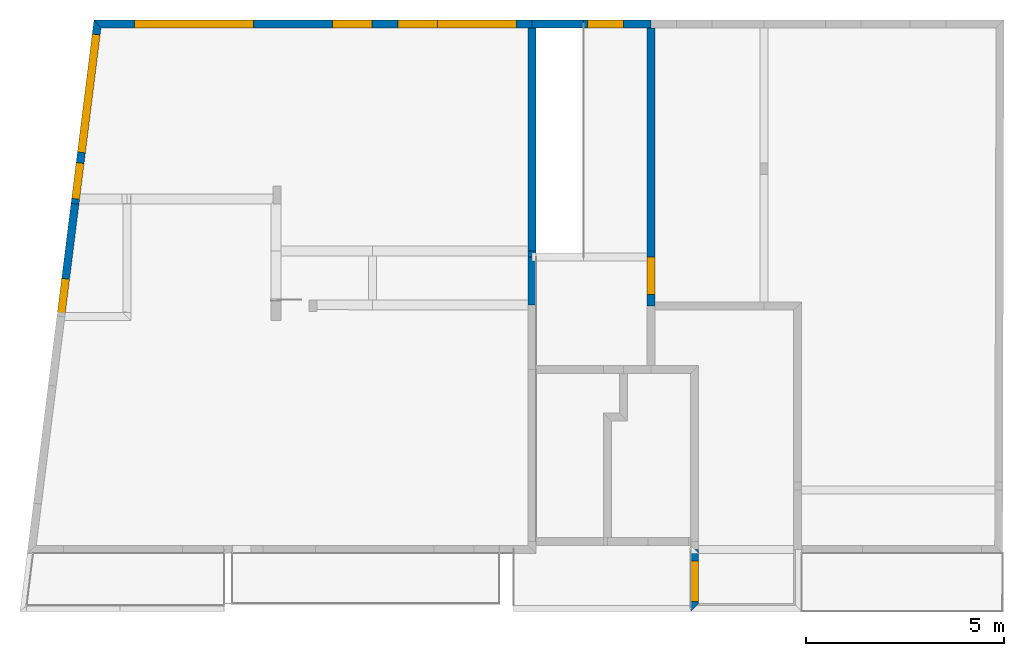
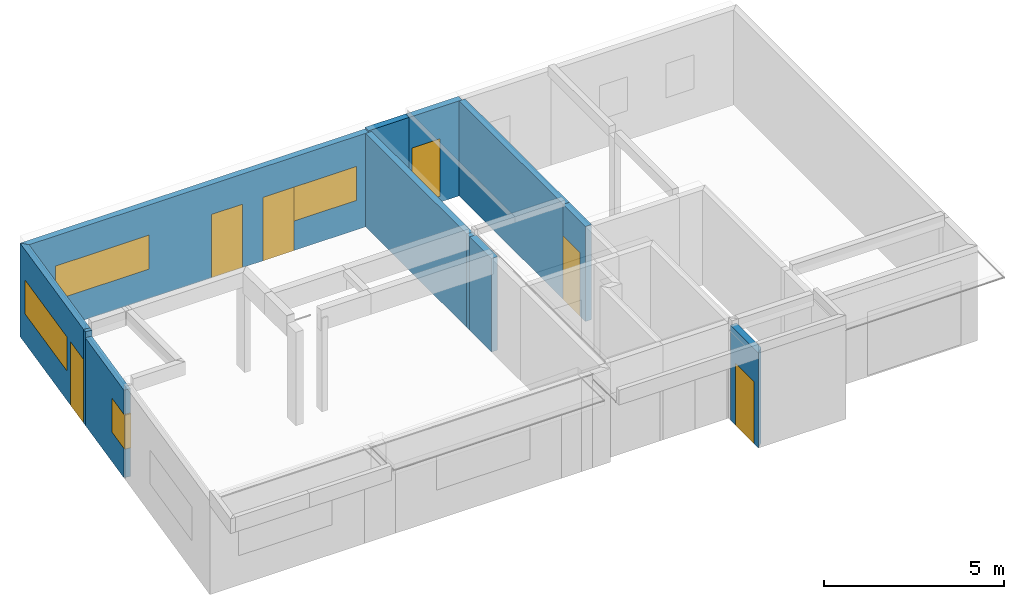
# One storey, part 15 of 17: 12 walls, 5 doors, 5 windows, 10 openings.
"""IFC2X3 building model written with IfcOpenShell, lengths in metres."""

import ifcopenshell
import ifcopenshell.guid

model = None  # the IFC model being written
_history = None  # IfcOwnerHistory: only IFC2X3 demands one
_inside = {}  # id of a spatial element -> (the spatial element, [elements in it])
_under = {}  # id of a project, library or spatial element -> (it, [spatial elements below it])
_declared = {}  # id of a project -> (the project, [libraries it declares])
_typed = {}  # id of a type object -> (the type object, [elements of that type])
_made_of = {}  # id of a material, layer set ... -> (it, [elements and type objects made of it])


def new_model(schema):
    """Start an empty IFC model of exactly this schema.

    Asked for "IFC4X3", IfcOpenShell would pick the latest addendum, in which some entities
    have other attributes; the version numbers below select the first issue.
    IFC2X3 requires an IfcOwnerHistory on every rooted entity: one is made here for all.
    """
    global model, _history
    if schema == "IFC4X3":
        model = ifcopenshell.file(schema_version=(4, 3, 0, 0))
    else:
        model = ifcopenshell.file(schema=schema)
    _inside.clear()
    _under.clear()
    _declared.clear()
    _typed.clear()
    _made_of.clear()
    _history = None
    if model.schema == "IFC2X3":
        org = make("IfcOrganization", Name="unknown")
        user = make(
            "IfcPersonAndOrganization",
            ThePerson=make("IfcPerson", FamilyName="unknown"),
            TheOrganization=org,
        )
        app = make(
            "IfcApplication",
            ApplicationDeveloper=org,
            Version="unknown",
            ApplicationFullName="unknown",
            ApplicationIdentifier="unknown",
        )
        _history = make(
            "IfcOwnerHistory",
            OwningUser=user,
            OwningApplication=app,
            ChangeAction="ADDED",
            CreationDate=0,
        )
    return model


def make(cls, **values):
    """One entity of the class cls with the attributes given. An attribute that is None is left unset."""
    return model.create_entity(
        cls, **{name: value for name, value in values.items() if value is not None}
    )


def rooted(cls, **values):
    """An entity with a GlobalId (a new one), such as an element, a storey or a relation."""
    return make(cls, GlobalId=ifcopenshell.guid.new(), OwnerHistory=_history, **values)


def si_unit(unit_type, name, prefix=None):
    """IfcSIUnit, for example si_unit("LENGTHUNIT", "METRE", prefix="MILLI")."""
    return make("IfcSIUnit", UnitType=unit_type, Prefix=prefix, Name=name)


def assignment(units):
    """IfcUnitAssignment: the units of a project."""
    return None if units is None else make("IfcUnitAssignment", Units=units)


def point(xyz):
    """IfcCartesianPoint."""
    return None if xyz is None else make("IfcCartesianPoint", Coordinates=xyz)


def direction(xyz):
    """IfcDirection."""
    return None if xyz is None else make("IfcDirection", DirectionRatios=xyz)


def frame(location, z_axis=None, x_axis=None):
    """IfcAxis2Placement3D, a coordinate frame: its origin and axes. An axis left out is left unset."""
    return make(
        "IfcAxis2Placement3D",
        Location=point(location),
        Axis=direction(z_axis),
        RefDirection=direction(x_axis),
    )


def frame_2d(location, x_axis=None):
    """IfcAxis2Placement2D, a coordinate frame in the plane: its origin and x axis."""
    return make(
        "IfcAxis2Placement2D", Location=point(location), RefDirection=direction(x_axis)
    )


def origin_with_axes():
    """The frame at (0, 0, 0) with the z axis (0, 0, 1) and the x axis (1, 0, 0) written out."""
    return frame((0.0, 0.0, 0.0), z_axis=(0.0, 0.0, 1.0), x_axis=(1.0, 0.0, 0.0))


def origin_2d():
    """The frame at (0, 0) in the plane with its x axis left unset."""
    return frame_2d((0.0, 0.0))


def place(relative_to, where):
    """IfcLocalPlacement: puts the frame where relative to a parent placement (None: the world)."""
    return make(
        "IfcLocalPlacement", PlacementRelTo=relative_to, RelativePlacement=where
    )


def context(
    kind, dimensions, precision=None, world=None, true_north=None, identifier=None
):
    """IfcGeometricRepresentationContext, for example the 3D "Model" context."""
    return make(
        "IfcGeometricRepresentationContext",
        ContextIdentifier=identifier,
        ContextType=kind,
        CoordinateSpaceDimension=dimensions,
        Precision=precision,
        WorldCoordinateSystem=world,
        TrueNorth=true_north,
    )


def subcontext(parent, identifier, kind, view, scale=None):
    """IfcGeometricRepresentationSubContext, for example "Body" below "Model"."""
    return make(
        "IfcGeometricRepresentationSubContext",
        ContextIdentifier=identifier,
        ContextType=kind,
        ParentContext=parent,
        TargetScale=scale,
        TargetView=view,
    )


def project(units=None, contexts=None):
    """IfcProject with its units and contexts."""
    return rooted(
        "IfcProject",
        Name="project",
        RepresentationContexts=contexts,
        UnitsInContext=assignment(units),
    )


def spatial(cls, under=None, at=None, **own):
    """A site, building, storey or space (cls), placed at a placement, below another one or the project."""
    s = rooted(cls, ObjectPlacement=at, **own)
    if under is not None:
        _under.setdefault(under.id(), (under, []))[1].append(s)
    return s


def polyline(points):
    """IfcPolyline through the points."""
    return make("IfcPolyline", Points=[point(p) for p in points])


def profile(cls, at=None, kind="AREA", **sizes):
    """A parametric profile (cls). Its sizes go by their IFC names, for example OverallWidth=200.0."""
    return make(cls, ProfileType=kind, Position=at, **sizes)


def rectangle(**sizes):
    """IfcRectangleProfileDef."""
    return profile("IfcRectangleProfileDef", **sizes)


def outline(outer, holes=None, kind="AREA"):
    """IfcArbitraryClosedProfileDef: a profile drawn as a closed curve; with holes, ...WithVoids."""
    if holes is None:
        return make("IfcArbitraryClosedProfileDef", ProfileType=kind, OuterCurve=outer)
    return make(
        "IfcArbitraryProfileDefWithVoids",
        ProfileType=kind,
        OuterCurve=outer,
        InnerCurves=holes,
    )


def extrude(swept, where, along, depth):
    """IfcExtrudedAreaSolid: the profile swept, set in the frame where, extruded along a direction by depth."""
    return make(
        "IfcExtrudedAreaSolid",
        SweptArea=swept,
        Position=where,
        ExtrudedDirection=direction(along),
        Depth=depth,
    )


def shape(context_of_items, identifier, shape_type, items):
    """IfcShapeRepresentation: the items that make up one representation, for example the "Body"."""
    return make(
        "IfcShapeRepresentation",
        ContextOfItems=context_of_items,
        RepresentationIdentifier=identifier,
        RepresentationType=shape_type,
        Items=items,
    )


def material(Name=None, Category=None):
    """IfcMaterial."""
    return make("IfcMaterial", Name=Name, Category=Category)


def layer(
    of_material, thickness, ventilated=None, Name=None, Category=None, Priority=None
):
    """IfcMaterialLayer: one layer of a wall or slab, of a material (None: an air gap)."""
    return make(
        "IfcMaterialLayer",
        Material=of_material,
        LayerThickness=thickness,
        IsVentilated=ventilated,
        Name=Name,
        Category=Category,
        Priority=Priority,
    )


def layer_set(layers, Name=None):
    """IfcMaterialLayerSet."""
    return make("IfcMaterialLayerSet", MaterialLayers=layers, LayerSetName=Name)


def layer_usage(for_layer_set, set_direction, sense, offset, extent=None):
    """IfcMaterialLayerSetUsage: how a layer set lies in its element."""
    return make(
        "IfcMaterialLayerSetUsage",
        ForLayerSet=for_layer_set,
        LayerSetDirection=set_direction,
        DirectionSense=sense,
        OffsetFromReferenceLine=offset,
        ReferenceExtent=extent,
    )


def made_of(thing, what):
    """Note that an element or type object is made of a material, layer set ...; save() writes the relation."""
    if what is not None:
        _made_of.setdefault(what.id(), (what, []))[1].append(thing)
    return thing


def type_object(cls, material=None, **own):
    """A type object (cls), such as IfcWallType, which elements share."""
    return made_of(rooted(cls, **own), material)


def element(
    cls,
    number,
    at=None,
    inside=None,
    cuts=None,
    type_object=None,
    material=None,
    context=None,
    identifier="Body",
    shape_type=None,
    held_by="IfcProductDefinitionShape",
    body=None,
    shapes=None,
    **own,
):
    """One element of the class cls, such as IfcWall. Its Tag is "e" and its number.

    at: its placement. inside: the storey or other place that contains it. cuts: it is an
    opening in that element (IfcRelVoidsElement). A single representation is given by context,
    identifier, shape_type and body (its items); several are given by shapes. held_by: the class
    of the entity that holds the representations. save() writes the other relations.
    """
    e = rooted(cls, Tag="e%d" % number, ObjectPlacement=at, **own)
    if body is not None:
        shapes = [shape(context, identifier, shape_type, body)]
    if shapes is not None:
        e.Representation = make(held_by, Representations=shapes)
    if inside is not None:
        _inside.setdefault(inside.id(), (inside, []))[1].append(e)
    if cuts is not None:
        rooted(
            "IfcRelVoidsElement", RelatingBuildingElement=cuts, RelatedOpeningElement=e
        )
    if type_object is not None:
        _typed.setdefault(type_object.id(), (type_object, []))[1].append(e)
    return made_of(e, material)


def fill(opening, filler):
    """IfcRelFillsElement: the door or window that sits in an opening."""
    return rooted(
        "IfcRelFillsElement",
        RelatingOpeningElement=opening,
        RelatedBuildingElement=filler,
    )


def aggregate(whole, parts):
    """IfcRelAggregates: a whole, such as a stair, and the parts it consists of."""
    return rooted("IfcRelAggregates", RelatingObject=whole, RelatedObjects=parts)


def save(model, path):
    """Write the relations noted so far, then the file.

    IfcRelAggregates (storeys below a building ...), IfcRelContainedInSpatialStructure (elements
    in a storey), IfcRelDefinesByType, IfcRelAssociatesMaterial and IfcRelDeclares: one each for
    every whole, place, type object, material and project.
    """
    for whole, parts in _under.values():
        aggregate(whole, parts)
    for where, things in _inside.values():
        rooted(
            "IfcRelContainedInSpatialStructure",
            RelatedElements=things,
            RelatingStructure=where,
        )
    for kind, things in _typed.values():
        rooted("IfcRelDefinesByType", RelatedObjects=things, RelatingType=kind)
    for what, things in _made_of.values():
        rooted("IfcRelAssociatesMaterial", RelatedObjects=things, RelatingMaterial=what)
    for by, libraries in _declared.values():
        rooted("IfcRelDeclares", RelatingContext=by, RelatedDefinitions=libraries)
    model.write(path)


model = new_model("IFC2X3")

# Units and contexts
model_context = context("Model", 3, precision=0.0001, world=origin_with_axes(), true_north=direction((0.0, 1.0)))
plan_context = context("Plan", 2, precision=0.0001, world=origin_with_axes(), true_north=direction((0.0, 1.0)))
body_context = subcontext(model_context, "Body", "Model", "MODEL_VIEW")
ifc_project = project(units=[si_unit("LENGTHUNIT", "METRE"), si_unit("AREAUNIT", "SQUARE_METRE"), si_unit("MASSUNIT", "GRAM", prefix="KILO"), si_unit("VOLUMEUNIT", "CUBIC_METRE")], contexts=[plan_context, model_context])

# Site, building, storey
site_placement = place(None, origin_with_axes())
site = spatial("IfcSite", under=ifc_project, at=site_placement, Name="$", CompositionType="ELEMENT")
building_placement = place(site_placement, origin_with_axes())
building = spatial("IfcBuilding", under=site, at=building_placement, Name="Classeur ENS Ensemble", CompositionType="ELEMENT")
storey_placement = place(building_placement, frame((-20.30778888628, -1.812671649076, 0.0), z_axis=(0.0, 0.0, 1.0), x_axis=(1.0, 0.0, 0.0)))
storey = spatial("IfcBuildingStorey", under=building, at=storey_placement, Name="001 RdC", CompositionType="ELEMENT", Elevation=0.0)

# Wall, openings, windows, doors
ifc_material_1 = material(Name="voile BA 20 cm")
ifc_layer_1 = layer(ifc_material_1, 0.2000000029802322)
ifc_layer_set_1 = layer_set([ifc_layer_1], Name="voile BA 20 cm+")
ifc_layer_usage_1 = layer_usage(ifc_layer_set_1, "AXIS2", "POSITIVE", -0.1000000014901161)
wall_type = type_object("IfcWallType", PredefinedType="STANDARD")
wall_1_placement = place(storey_placement, frame((20.41370627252, 1.692671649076, -0.119999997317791), z_axis=(0.0, 0.0, 1.0), x_axis=(1.0, 0.0, 0.0)))
wall_1 = element("IfcWall", 1, at=wall_1_placement, inside=storey, type_object=wall_type, material=ifc_layer_usage_1, Name="voile BA 20 cm", context=body_context, shape_type="SweptSolid", held_by="IfcProductRepresentation", body=[
    extrude(outline(polyline([(-0.0882644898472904, 0.1000000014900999), (-0.0882644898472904, 0.1000000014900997), (-0.0882644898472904, 0.1000000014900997), (10.96958903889, 0.1000000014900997), (10.96958903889, 0.1000000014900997), (10.96958903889, 0.1000000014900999), (10.96958903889, -0.1000000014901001), (10.86958903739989, -0.1000000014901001), (10.86958903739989, -0.1000000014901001), (0.0882644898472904, -0.1000000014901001), (0.0882644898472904, -0.1000000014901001), (0.0882644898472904, -0.1000000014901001), (-0.0882644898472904, 0.1000000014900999)])), origin_with_axes(), (0.0, 0.0, 1.0), 3.170000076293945),
])
opening_1_placement = place(wall_1_placement, frame((2.43802946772, 0.1000000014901, 0.999999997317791), z_axis=(0.0, 0.0, 1.0), x_axis=(1.0, 0.0, 0.0)))
opening_1 = element("IfcOpeningElement", 2, at=opening_1_placement, cuts=wall_1, Name="BL 300 x 115", context=body_context, shape_type="SweptSolid", held_by="IfcProductRepresentation", body=[
    extrude(rectangle(XDim=3.0, YDim=1.149999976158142, at=origin_2d()), frame((0.0, 0.0, 0.574999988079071), z_axis=(0.0, -1.0, 0.0), x_axis=(1.0, 0.0, 0.0)), (0.0, 0.0, 1.0), 0.2000000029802),
])
opening_2_placement = place(wall_1_placement, frame((9.57738370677, 0.1000000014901, 0.999999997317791), z_axis=(0.0, 0.0, 1.0), x_axis=(1.0, 0.0, 0.0)))
opening_2 = element("IfcOpeningElement", 3, at=opening_2_placement, cuts=wall_1, Name="BL 200 x 115", context=body_context, shape_type="SweptSolid", held_by="IfcProductRepresentation", body=[
    extrude(rectangle(XDim=2.0, YDim=1.149999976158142, at=origin_2d()), frame((0.0, 0.0, 0.574999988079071), z_axis=(0.0, -1.0, 0.0), x_axis=(1.0, 0.0, 0.0)), (0.0, 0.0, 1.0), 0.2000000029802),
])
opening_3_placement = place(wall_1_placement, frame((8.081933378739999, 0.1000000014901, -2.682209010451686e-09), z_axis=(0.0, 0.0, 1.0), x_axis=(1.0, 0.0, 0.0)))
opening_3 = element("IfcOpeningElement", 4, at=opening_3_placement, cuts=wall_1, Name="BL 100 x 215", context=body_context, shape_type="SweptSolid", held_by="IfcProductRepresentation", body=[
    extrude(rectangle(XDim=1.0, YDim=2.150000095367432, at=origin_2d()), frame((0.0, 0.0, 1.075000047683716), z_axis=(0.0, -1.0, 0.0), x_axis=(1.0, 0.0, 0.0)), (0.0, 0.0, 1.0), 0.2000000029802),
])
opening_4_placement = place(wall_1_placement, frame((6.427420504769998, 0.1000000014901, -2.682209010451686e-09), z_axis=(0.0, 0.0, 1.0), x_axis=(1.0, 0.0, 0.0)))
opening_4 = element("IfcOpeningElement", 5, at=opening_4_placement, cuts=wall_1, Name="PE 93 x 212", context=body_context, shape_type="SweptSolid", held_by="IfcProductRepresentation", body=[
    extrude(rectangle(XDim=1.0, YDim=2.150000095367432, at=origin_2d()), frame((0.0, 0.0, 1.075000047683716), z_axis=(0.0, -1.0, 0.0), x_axis=(1.0, 0.0, 0.0)), (0.0, 0.0, 1.0), 0.2000000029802),
])
window_1_placement = place(opening_1_placement, origin_with_axes())
window_1 = element("IfcWindow", 6, at=window_1_placement, inside=storey, Name="BL 300 x 115", OverallHeight=1.149999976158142, OverallWidth=3.0, context=body_context, shape_type="SweptSolid", held_by="IfcProductRepresentation", body=[
    extrude(rectangle(XDim=3.0, YDim=1.149999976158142, at=origin_2d()), frame((0.0, 0.0, 0.574999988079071), z_axis=(0.0, -1.0, 0.0), x_axis=(1.0, 0.0, 0.0)), (0.0, 0.0, 1.0), 0.2000000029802),
])
fill(opening_1, window_1)
window_2_placement = place(opening_2_placement, origin_with_axes())
window_2 = element("IfcWindow", 7, at=window_2_placement, inside=storey, Name="BL 200 x 115", OverallHeight=1.149999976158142, OverallWidth=2.0, context=body_context, shape_type="SweptSolid", held_by="IfcProductRepresentation", body=[
    extrude(rectangle(XDim=2.0, YDim=1.149999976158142, at=origin_2d()), frame((0.0, 0.0, 0.574999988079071), z_axis=(0.0, -1.0, 0.0), x_axis=(1.0, 0.0, 0.0)), (0.0, 0.0, 1.0), 0.2000000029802),
])
fill(opening_2, window_2)
door_1_placement = place(opening_3_placement, origin_with_axes())
door_1 = element("IfcDoor", 8, at=door_1_placement, inside=storey, Name="BL 100 x 215", OverallHeight=2.150000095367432, OverallWidth=1.0, context=body_context, shape_type="SweptSolid", held_by="IfcProductRepresentation", body=[
    extrude(rectangle(XDim=1.0, YDim=2.150000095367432, at=origin_2d()), frame((0.0, 0.0, 1.075000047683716), z_axis=(0.0, -1.0, 0.0), x_axis=(1.0, 0.0, 0.0)), (0.0, 0.0, 1.0), 0.2000000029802),
])
fill(opening_3, door_1)
door_2_placement = place(opening_4_placement, origin_with_axes())
door_2 = element("IfcDoor", 9, at=door_2_placement, inside=storey, Name="PE 93 x 212", OverallHeight=2.150000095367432, OverallWidth=1.0, context=body_context, shape_type="SweptSolid", held_by="IfcProductRepresentation", body=[
    extrude(rectangle(XDim=1.0, YDim=2.150000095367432, at=origin_2d()), frame((0.0, 0.0, 1.075000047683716), z_axis=(0.0, -1.0, 0.0), x_axis=(1.0, 0.0, 0.0)), (0.0, 0.0, 1.0), 0.2000000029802),
])
fill(opening_4, door_2)

# Wall, opening, door
ifc_material_2 = material(Name="voile BA 20 cm")
ifc_layer_2 = layer(ifc_material_2, 0.2000000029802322)
ifc_layer_set_2 = layer_set([ifc_layer_2], Name="voile BA 20 cm+")
ifc_layer_usage_2 = layer_usage(ifc_layer_set_2, "AXIS2", "POSITIVE", -0.1000000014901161)
wall_2_placement = place(storey_placement, frame((35.48329531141, -13.03232835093, -0.119999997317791), z_axis=(0.0, 0.0, 1.0), x_axis=(0.0, 1.0, 0.0)))
wall_2 = element("IfcWall", 10, at=wall_2_placement, inside=storey, type_object=wall_type, material=ifc_layer_usage_2, Name="voile BA 20 cm", context=body_context, shape_type="SweptSolid", held_by="IfcProductRepresentation", body=[
    extrude(outline(polyline([(-0.1000000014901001, 0.1000000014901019), (-0.1000000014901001, 0.1000000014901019), (-0.1000000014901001, 0.1000000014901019), (1.465000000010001, 0.1000000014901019), (1.465000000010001, 0.1000000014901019), (1.465000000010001, 0.1000000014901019), (1.465000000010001, -0.1000000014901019), (1.465000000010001, -0.1000000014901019), (1.465000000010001, -0.1000000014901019), (0.1000000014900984, -0.1000000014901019), (0.1000000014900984, -0.1000000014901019), (0.1000000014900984, -0.1000000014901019), (-0.1000000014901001, 0.1000000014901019)])), origin_with_axes(), (0.0, 0.0, 1.0), 3.220000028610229),
])
opening_5_placement = place(wall_2_placement, frame((0.6627847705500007, 0.1000000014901, -2.682209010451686e-09), z_axis=(0.0, 0.0, 1.0), x_axis=(1.0, 0.0, 0.0)))
opening_5 = element("IfcOpeningElement", 11, at=opening_5_placement, cuts=wall_2, Name="PS 103 x 210", context=body_context, shape_type="SweptSolid", held_by="IfcProductRepresentation", body=[
    extrude(rectangle(XDim=1.029999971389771, YDim=2.099999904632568, at=origin_2d()), frame((0.0, 0.0, 1.049999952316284), z_axis=(0.0, -1.0, 0.0), x_axis=(1.0, 0.0, 0.0)), (0.0, 0.0, 1.0), 0.2000000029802),
])
door_3_placement = place(opening_5_placement, origin_with_axes())
door_3 = element("IfcDoor", 12, at=door_3_placement, inside=storey, Name="PS 103 x 210", OverallHeight=2.099999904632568, OverallWidth=1.029999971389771, context=body_context, shape_type="SweptSolid", held_by="IfcProductRepresentation", body=[
    extrude(rectangle(XDim=1.029999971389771, YDim=2.099999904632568, at=origin_2d()), frame((0.0, 0.0, 1.049999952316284), z_axis=(0.0, -1.0, 0.0), x_axis=(1.0, 0.0, 0.0)), (0.0, 0.0, 1.0), 0.2000000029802),
])
fill(opening_5, door_3)

ifc_material_3 = material(Name="voile BA 20 cm")
ifc_layer_3 = layer(ifc_material_3, 0.2000000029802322)
ifc_layer_set_3 = layer_set([ifc_layer_3], Name="voile BA 20 cm+")
ifc_layer_usage_3 = layer_usage(ifc_layer_set_3, "AXIS2", "POSITIVE", -0.1000000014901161)
wall_3_placement = place(storey_placement, frame((34.38329531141, -5.427328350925, -0.119999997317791), z_axis=(0.0, 0.0, 1.0), x_axis=(0.0, 1.0, 0.0)))
wall_3 = element("IfcWall", 13, at=wall_3_placement, inside=storey, type_object=wall_type, material=ifc_layer_usage_3, Name="voile BA 20 cm", context=body_context, shape_type="SweptSolid", held_by="IfcProductRepresentation", body=[
    extrude(outline(polyline([(0.0, 0.1000000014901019), (0.0, 0.1000000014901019), (0.0, 0.1000000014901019), (1.236187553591, 0.1000000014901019), (1.236187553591, 0.1000000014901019), (1.236187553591, 0.1000000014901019), (1.236187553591, -0.1000000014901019), (1.236187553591, -0.1000000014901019), (1.236187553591, -0.1000000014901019), (0.1000000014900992, -0.1000000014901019), (0.1000000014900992, -0.1000000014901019), (0.0, -0.1000000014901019), (0.0, 0.1000000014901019)])), origin_with_axes(), (0.0, 0.0, 1.0), 3.220000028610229),
])
opening_6_placement = place(wall_3_placement, frame((0.7652937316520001, 0.1000000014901, -2.682209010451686e-09), z_axis=(0.0, 0.0, 1.0), x_axis=(1.0, 0.0, 0.0)))
opening_6 = element("IfcOpeningElement", 14, at=opening_6_placement, cuts=wall_3, Name="PE 95 x 215", context=body_context, shape_type="SweptSolid", held_by="IfcProductRepresentation", body=[
    extrude(rectangle(XDim=0.949999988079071, YDim=2.150000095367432, at=origin_2d()), frame((0.0, 0.0, 1.075000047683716), z_axis=(0.0, -1.0, 0.0), x_axis=(1.0, 0.0, 0.0)), (0.0, 0.0, 1.0), 0.2000000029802),
])
door_4_placement = place(opening_6_placement, origin_with_axes())
door_4 = element("IfcDoor", 15, at=door_4_placement, inside=storey, Name="PE 95 x 215", OverallHeight=2.150000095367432, OverallWidth=0.949999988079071, context=body_context, shape_type="SweptSolid", held_by="IfcProductRepresentation", body=[
    extrude(rectangle(XDim=0.949999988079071, YDim=2.150000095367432, at=origin_2d()), frame((0.0, 0.0, 1.075000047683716), z_axis=(0.0, -1.0, 0.0), x_axis=(1.0, 0.0, 0.0)), (0.0, 0.0, 1.0), 0.2000000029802),
])
fill(opening_6, door_4)

# Walls
ifc_material_4 = material(Name="voile BA 20 cm")
ifc_layer_4 = layer(ifc_material_4, 0.2000000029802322)
ifc_layer_set_4 = layer_set([ifc_layer_4], Name="voile BA 20 cm+")
ifc_layer_usage_4 = layer_usage(ifc_layer_set_4, "AXIS2", "POSITIVE", -0.1000000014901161)
wall_4_placement = place(storey_placement, frame((31.38329531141, 1.692671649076, -0.119999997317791), z_axis=(0.0, 0.0, 1.0), x_axis=(1.0, 0.0, 0.0)))
element("IfcWall", 16, at=wall_4_placement, inside=storey, type_object=wall_type, material=ifc_layer_usage_4, Name="voile BA 20 cm", context=body_context, shape_type="SweptSolid", held_by="IfcProductRepresentation", body=[
    extrude(outline(polyline([(0.0, 0.1000000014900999), (0.0, 0.1000000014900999), (0.0, 0.1000000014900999), (1.299999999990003, 0.1000000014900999), (1.299999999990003, 0.1000000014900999), (1.299999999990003, 0.1000000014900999), (1.299999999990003, -0.1000000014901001), (1.299999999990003, -0.1000000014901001), (1.299999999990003, -0.1000000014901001), (0.1000000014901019, -0.1000000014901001), (0.1000000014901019, -0.1000000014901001), (0.0, -0.1000000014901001), (0.0, 0.1000000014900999)])), origin_with_axes(), (0.0, 0.0, 1.0), 3.220000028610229),
])
ifc_material_5 = material(Name="voile BA 20 cm")
ifc_layer_5 = layer(ifc_material_5, 0.2000000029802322)
ifc_layer_set_5 = layer_set([ifc_layer_5], Name="voile BA 20 cm+")
ifc_layer_usage_5 = layer_usage(ifc_layer_set_5, "AXIS2", "POSITIVE", -0.1000000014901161)
wall_5_placement = place(storey_placement, frame((31.38329531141, -4.032328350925, -0.119999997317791), z_axis=(0.0, 0.0, 1.0), x_axis=(0.0, 0.9999999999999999, 0.0)))
element("IfcWall", 17, at=wall_5_placement, inside=storey, type_object=wall_type, material=ifc_layer_usage_5, Name="voile BA 20 cm", context=body_context, shape_type="SweptSolid", held_by="IfcProductRepresentation", body=[
    extrude(outline(polyline([(0.0, 0.1000000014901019), (0.0, 0.1000000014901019), (0.0, 0.1000000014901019), (5.6249999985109, 0.1000000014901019), (5.6249999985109, 0.1000000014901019), (5.6249999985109, 0.1000000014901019), (5.6249999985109, -0.1000000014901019), (5.6249999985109, -0.1000000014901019), (5.6249999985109, -0.1000000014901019), (0.0, -0.1000000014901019), (0.0, -0.1000000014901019), (0.0, -0.1000000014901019), (0.0, 0.1000000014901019)])), origin_with_axes(), (0.0, 0.0, 1.0), 3.170000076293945),
])
ifc_material_6 = material(Name="voile BA 20 cm")
ifc_layer_6 = layer(ifc_material_6, 0.2000000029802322)
ifc_layer_set_6 = layer_set([ifc_layer_6], Name="voile BA 20 cm+")
ifc_layer_usage_6 = layer_usage(ifc_layer_set_6, "AXIS2", "POSITIVE", -0.1000000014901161)
wall_6_placement = place(storey_placement, frame((31.38329531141, -5.402506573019, -0.119999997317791), z_axis=(0.0, 0.0, 1.0), x_axis=(0.0, 1.0, 0.0)))
element("IfcWall", 18, at=wall_6_placement, inside=storey, type_object=wall_type, material=ifc_layer_usage_6, Name="voile BA 20 cm", context=body_context, shape_type="SweptSolid", held_by="IfcProductRepresentation", body=[
    extrude(outline(polyline([(0.0, 0.1000000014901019), (0.0, 0.1000000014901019), (0.0, 0.1000000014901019), (1.211365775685, 0.1000000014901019), (1.211365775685, 0.1000000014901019), (1.211365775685, 0.1000000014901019), (1.211365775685, -0.1000000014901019), (1.211365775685, -0.1000000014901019), (1.211365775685, -0.1000000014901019), (0.0, -0.1000000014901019), (0.0, -0.1000000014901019), (0.0, -0.1000000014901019), (0.0, 0.1000000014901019)])), origin_with_axes(), (0.0, 0.0, 1.0), 3.170000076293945),
])

# Wall, openings, window, door
ifc_material_7 = material(Name="voile BA 20 cm")
ifc_layer_7 = layer(ifc_material_7, 0.2000000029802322)
ifc_layer_set_7 = layer_set([ifc_layer_7], Name="voile BA 20 cm+")
ifc_layer_usage_7 = layer_usage(ifc_layer_set_7, "AXIS2", "POSITIVE", -0.1000000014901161)
wall_7_placement = place(storey_placement, frame((19.86113903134, -2.722328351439, -0.119999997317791), z_axis=(0.0, 0.0, 1.0), x_axis=(0.1241879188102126, 0.992258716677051, 0.0)))
wall_7 = element("IfcWall", 19, at=wall_7_placement, inside=storey, type_object=wall_type, material=ifc_layer_usage_7, Name="voile BA 20 cm", context=body_context, shape_type="SweptSolid", held_by="IfcProductRepresentation", body=[
    extrude(outline(polyline([(1.127570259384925e-16, 0.1000000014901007), (2.219275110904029e-12, 0.1000000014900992), (2.219275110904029e-12, 0.1000000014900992), (4.537708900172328, 0.1000000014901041), (4.537708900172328, 0.1000000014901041), (4.537708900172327, 0.1000000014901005), (4.361179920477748, -0.1000000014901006), (4.361179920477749, -0.1000000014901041), (4.361179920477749, -0.1000000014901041), (-2.218836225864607e-12, -0.1000000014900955), (-2.218836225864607e-12, -0.1000000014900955), (-1.127570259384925e-16, -0.1000000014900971), (1.127570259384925e-16, 0.1000000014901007)])), origin_with_axes(), (0.0, 0.0, 1.0), 3.170000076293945),
])
opening_7_placement = place(wall_7_placement, frame((2.682126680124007, 0.1000000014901, 0.999999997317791), z_axis=(0.0, 0.0, 1.0), x_axis=(1.0, 0.0, 0.0)))
opening_7 = element("IfcOpeningElement", 20, at=opening_7_placement, cuts=wall_7, Name="BL 300 x 115", context=body_context, shape_type="SweptSolid", held_by="IfcProductRepresentation", body=[
    extrude(rectangle(XDim=3.0, YDim=1.149999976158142, at=origin_2d()), frame((0.0, 0.0, 0.574999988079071), z_axis=(0.0, -1.0, 0.0), x_axis=(1.0, 0.0, 0.0)), (0.0, 0.0, 1.0), 0.2000000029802),
])
opening_8_placement = place(wall_7_placement, frame((0.4124393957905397, 0.1000000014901, -2.682209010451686e-09), z_axis=(0.0, 0.0, 1.0), x_axis=(1.0, 0.0, 0.0)))
opening_8 = element("IfcOpeningElement", 21, at=opening_8_placement, cuts=wall_7, Name="BL 100 x 215", context=body_context, shape_type="SweptSolid", held_by="IfcProductRepresentation", body=[
    extrude(rectangle(XDim=1.0, YDim=2.150000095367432, at=origin_2d()), frame((0.0, 0.0, 1.075000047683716), z_axis=(0.0, -1.0, 0.0), x_axis=(1.0, 0.0, 0.0)), (0.0, 0.0, 1.0), 0.2000000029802),
])
window_3_placement = place(opening_7_placement, origin_with_axes())
window_3 = element("IfcWindow", 22, at=window_3_placement, inside=storey, Name="BL 300 x 115", OverallHeight=1.149999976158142, OverallWidth=3.0, context=body_context, shape_type="SweptSolid", held_by="IfcProductRepresentation", body=[
    extrude(rectangle(XDim=3.0, YDim=1.149999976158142, at=origin_2d()), frame((0.0, 0.0, 0.574999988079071), z_axis=(0.0, -1.0, 0.0), x_axis=(1.0, 0.0, 0.0)), (0.0, 0.0, 1.0), 0.2000000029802),
])
fill(opening_7, window_3)
door_5_placement = place(opening_8_placement, origin_with_axes())
door_5 = element("IfcDoor", 23, at=door_5_placement, inside=storey, Name="BL 100 x 215", OverallHeight=2.150000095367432, OverallWidth=1.0, context=body_context, shape_type="SweptSolid", held_by="IfcProductRepresentation", body=[
    extrude(rectangle(XDim=1.0, YDim=2.150000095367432, at=origin_2d()), frame((0.0, 0.0, 1.075000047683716), z_axis=(0.0, -1.0, 0.0), x_axis=(1.0, 0.0, 0.0)), (0.0, 0.0, 1.0), 0.2000000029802),
])
fill(opening_8, door_5)

# Wall
ifc_material_8 = material(Name="voile BA 20 cm")
ifc_layer_8 = layer(ifc_material_8, 0.2000000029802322)
ifc_layer_set_8 = layer_set([ifc_layer_8], Name="voile BA 20 cm+")
ifc_layer_usage_8 = layer_usage(ifc_layer_set_8, "AXIS2", "POSITIVE", -0.1000000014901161)
wall_8_placement = place(storey_placement, frame((19.84546967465, -2.847526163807, -0.119999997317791), z_axis=(0.0, 0.0, 1.0), x_axis=(0.1241879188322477, 0.9922587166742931, 0.0)))
element("IfcWall", 24, at=wall_8_placement, inside=storey, type_object=wall_type, material=ifc_layer_usage_8, Name="voile BA 20 cm", context=body_context, shape_type="SweptSolid", held_by="IfcProductRepresentation", body=[
    extrude(outline(polyline([(-1.427677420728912e-15, 0.1000000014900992), (-2.46603952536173e-12, 0.1000000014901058), (-2.46603952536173e-12, 0.1000000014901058), (0.126174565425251, 0.1000000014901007), (0.126174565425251, 0.1000000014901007), (0.1261745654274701, 0.1000000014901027), (0.1261745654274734, -0.1000000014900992), (0.1261745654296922, -0.1000000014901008), (0.1261745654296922, -0.1000000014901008), (2.465156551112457e-12, -0.1000000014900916), (2.465156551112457e-12, -0.1000000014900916), (1.427677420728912e-15, -0.1000000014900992), (-1.427677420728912e-15, 0.1000000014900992)])), origin_with_axes(), (0.0, 0.0, 1.0), 3.170000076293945),
])

# Wall, opening, window
ifc_material_9 = material(Name="voile BA 20 cm")
ifc_layer_9 = layer(ifc_material_9, 0.2000000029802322)
ifc_layer_set_9 = layer_set([ifc_layer_9], Name="voile BA 20 cm+")
ifc_layer_usage_9 = layer_usage(ifc_layer_set_9, "AXIS2", "POSITIVE", -0.1000000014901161)
wall_9_placement = place(storey_placement, frame((19.50256481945, -5.587328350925, -0.119999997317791), z_axis=(0.0, 0.0, 1.0), x_axis=(0.1241879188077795, 0.9922587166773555, 0.0)))
wall_9 = element("IfcWall", 25, at=wall_9_placement, inside=storey, type_object=wall_type, material=ifc_layer_usage_9, Name="voile BA 20 cm", context=body_context, shape_type="SweptSolid", held_by="IfcProductRepresentation", body=[
    extrude(outline(polyline([(3.157196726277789e-16, 0.1000000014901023), (3.20420773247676e-14, 0.1000000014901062), (3.20420773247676e-14, 0.1000000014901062), (2.761177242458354, 0.1000000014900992), (2.761177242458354, 0.1000000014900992), (2.76117724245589, 0.1000000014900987), (2.76117724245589, -0.1000000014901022), (2.761177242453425, -0.1000000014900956), (2.761177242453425, -0.1000000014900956), (-3.160319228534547e-14, -0.1000000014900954), (-3.160319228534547e-14, -0.1000000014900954), (1.231653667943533e-16, -0.1000000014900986), (3.157196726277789e-16, 0.1000000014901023)])), origin_with_axes(), (0.0, 0.0, 1.0), 2.970000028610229),
])
opening_9_placement = place(wall_9_placement, frame((0.4047933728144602, 0.1000000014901, 0.999999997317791), z_axis=(0.0, 0.0, 1.0), x_axis=(1.0, 0.0, 0.0)))
opening_9 = element("IfcOpeningElement", 26, at=opening_9_placement, cuts=wall_9, Name="BL 90 x 115", context=body_context, shape_type="SweptSolid", held_by="IfcProductRepresentation", body=[
    extrude(rectangle(XDim=0.8999999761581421, YDim=1.149999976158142, at=origin_2d()), frame((0.0, 0.0, 0.574999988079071), z_axis=(0.0, -1.0, 0.0), x_axis=(1.0, 0.0, 0.0)), (0.0, 0.0, 1.0), 0.2000000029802),
])
window_4_placement = place(opening_9_placement, origin_with_axes())
window_4 = element("IfcWindow", 27, at=window_4_placement, inside=storey, Name="BL 90 x 115", OverallHeight=1.149999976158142, OverallWidth=0.8999999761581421, context=body_context, shape_type="SweptSolid", held_by="IfcProductRepresentation", body=[
    extrude(rectangle(XDim=0.8999999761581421, YDim=1.149999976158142, at=origin_2d()), frame((0.0, 0.0, 0.574999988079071), z_axis=(0.0, -1.0, 0.0), x_axis=(1.0, 0.0, 0.0)), (0.0, 0.0, 1.0), 0.2000000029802),
])
fill(opening_9, window_4)

ifc_material_10 = material(Name="voile BA 20 cm")
ifc_layer_10 = layer(ifc_material_10, 0.2000000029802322)
ifc_layer_set_10 = layer_set([ifc_layer_10], Name="voile BA 20 cm+")
ifc_layer_usage_10 = layer_usage(ifc_layer_set_10, "AXIS2", "POSITIVE", -0.1000000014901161)
wall_10_placement = place(storey_placement, frame((32.6832953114, 1.692671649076, -0.119999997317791), z_axis=(0.0, 0.0, 1.0), x_axis=(0.9999999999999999, 0.0, 0.0)))
wall_10 = element("IfcWall", 28, at=wall_10_placement, inside=storey, type_object=wall_type, material=ifc_layer_usage_10, Name="voile BA 20 cm", context=body_context, shape_type="SweptSolid", held_by="IfcProductRepresentation", body=[
    extrude(outline(polyline([(0.0, 0.1000000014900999), (0.0, 0.1000000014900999), (0.0, 0.1000000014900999), (1.700000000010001, 0.1000000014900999), (1.700000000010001, 0.1000000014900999), (1.700000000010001, 0.1000000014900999), (1.700000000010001, -0.1000000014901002), (1.599999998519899, -0.1000000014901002), (1.599999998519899, -0.1000000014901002), (0.0, -0.1000000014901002), (0.0, -0.1000000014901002), (0.0, -0.1000000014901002), (0.0, 0.1000000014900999)])), origin_with_axes(), (0.0, 0.0, 1.0), 3.220000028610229),
])
opening_10_placement = place(wall_10_placement, frame((0.5480485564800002, 0.1000000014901, 0.200000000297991), z_axis=(0.0, 0.0, 1.0), x_axis=(1.0, 0.0, 0.0)))
opening_10 = element("IfcOpeningElement", 29, at=opening_10_placement, cuts=wall_10, Name="BL 90 x 195", context=body_context, shape_type="SweptSolid", held_by="IfcProductRepresentation", body=[
    extrude(rectangle(XDim=0.8999999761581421, YDim=1.950000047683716, at=origin_2d()), frame((0.0, 0.0, 0.9750000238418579), z_axis=(0.0, -1.0, 0.0), x_axis=(1.0, 0.0, 0.0)), (0.0, 0.0, 1.0), 0.2000000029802),
])
window_5_placement = place(opening_10_placement, origin_with_axes())
window_5 = element("IfcWindow", 30, at=window_5_placement, inside=storey, Name="BL 90 x 195", OverallHeight=1.950000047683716, OverallWidth=0.8999999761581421, context=body_context, shape_type="SweptSolid", held_by="IfcProductRepresentation", body=[
    extrude(rectangle(XDim=0.8999999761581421, YDim=1.950000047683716, at=origin_2d()), frame((0.0, 0.0, 0.9750000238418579), z_axis=(0.0, -1.0, 0.0), x_axis=(1.0, 0.0, 0.0)), (0.0, 0.0, 1.0), 0.2000000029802),
])
fill(opening_10, window_5)

# Walls
ifc_material_11 = material(Name="voile BA 20 cm")
ifc_layer_11 = layer(ifc_material_11, 0.2000000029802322)
ifc_layer_set_11 = layer_set([ifc_layer_11], Name="voile BA 20 cm+")
ifc_layer_usage_11 = layer_usage(ifc_layer_set_11, "AXIS2", "POSITIVE", -0.1000000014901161)
wall_11_placement = place(storey_placement, frame((31.38329531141, -4.191140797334, -0.119999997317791), z_axis=(0.0, 0.0, 1.0), x_axis=(0.0, 0.9999999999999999, 0.0)))
element("IfcWall", 31, at=wall_11_placement, inside=storey, type_object=wall_type, material=ifc_layer_usage_11, Name="voile BA 20 cm", context=body_context, shape_type="SweptSolid", held_by="IfcProductRepresentation", body=[
    extrude(outline(polyline([(0.0, 0.1000000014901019), (0.0, 0.1000000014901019), (0.0, 0.1000000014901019), (0.1588124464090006, 0.1000000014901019), (0.1588124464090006, 0.1000000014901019), (0.1588124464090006, 0.1000000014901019), (0.1588124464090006, -0.1000000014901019), (0.1588124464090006, -0.1000000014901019), (0.1588124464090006, -0.1000000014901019), (0.0, -0.1000000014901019), (0.0, -0.1000000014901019), (0.0, -0.1000000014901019), (0.0, 0.1000000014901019)])), origin_with_axes(), (0.0, 0.0, 1.0), 3.170000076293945),
])
ifc_material_12 = material(Name="voile BA 20 cm")
ifc_layer_12 = layer(ifc_material_12, 0.2000000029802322)
ifc_layer_set_12 = layer_set([ifc_layer_12], Name="voile BA 20 cm+")
ifc_layer_usage_12 = layer_usage(ifc_layer_set_12, "AXIS2", "POSITIVE", -0.1000000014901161)
wall_12_placement = place(storey_placement, frame((34.38329531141, -4.191140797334, -0.119999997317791), z_axis=(0.0, 0.0, 1.0), x_axis=(0.0, 1.0, 0.0)))
element("IfcWall", 32, at=wall_12_placement, inside=storey, type_object=wall_type, material=ifc_layer_usage_12, Name="voile BA 20 cm", context=body_context, shape_type="SweptSolid", held_by="IfcProductRepresentation", body=[
    extrude(outline(polyline([(0.0, 0.1000000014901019), (0.0, 0.1000000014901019), (0.0, 0.1000000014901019), (5.7838124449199, 0.1000000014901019), (5.7838124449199, 0.1000000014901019), (5.7838124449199, 0.1000000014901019), (5.7838124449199, -0.1000000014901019), (5.7838124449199, -0.1000000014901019), (5.7838124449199, -0.1000000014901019), (0.0, -0.1000000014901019), (0.0, -0.1000000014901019), (0.0, -0.1000000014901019), (0.0, 0.1000000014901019)])), origin_with_axes(), (0.0, 0.0, 1.0), 3.220000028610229),
])

save(model, "model.ifc")
